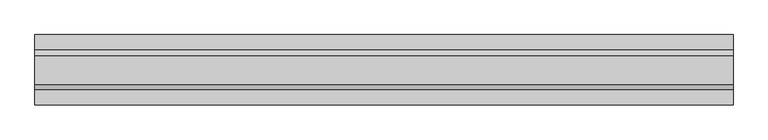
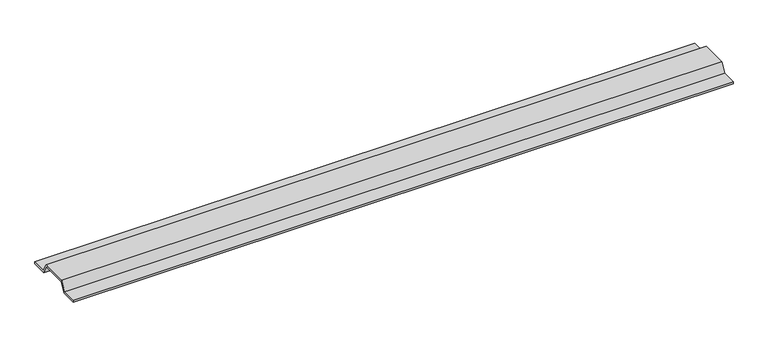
"""IFC4 building model written with IfcOpenShell, lengths in millimetres: beam geometry, B-Deck_Single_Flute_3d_14388 : B-Deck_Single_Flute_3d_14388."""

from ifc_helpers import new_model, si_unit, frame, origin, place, context, project, spatial, polyline, outline, extrude, source, transform, mapped, element, save


def beam_c9c6f53d(model_context):
    return source(origin(), model_context, "Body", "SweptSolid", [
        extrude(outline(polyline([(101.6, 6.35), (101.6, 0.0), (53.9397353, 0.0), (38.0647353, 27.4963066), (-38.0647353, 27.4963066), (-53.9397353, 0.0), (-101.6, 0.0), (-101.6, 6.35), (-57.6059095, 6.35), (-41.7309095, 33.8463066), (41.7309095, 33.8463066), (57.6059095, 6.35), (101.6, 6.35)])), frame((-1397.0, 0.0, 0.0), z_axis=(1.0, 0.0, 0.0), x_axis=(0.0, 1.0, 0.0)), (0.0, 0.0, 1.0), 2016.125),
    ])


if __name__ == "__main__":
    model = new_model("IFC4")
    model_context = context("Model", 3, world=origin())
    ifc_project = project(units=[si_unit("LENGTHUNIT", "METRE", prefix="MILLI")], contexts=[model_context])
    site = spatial("IfcSite", under=ifc_project)
    building = spatial("IfcBuilding", under=site)
    placement = place(None, origin())
    beam_shape = beam_c9c6f53d(model_context)
    element("IfcBeam", 1, ObjectType="B-Deck_Single_Flute_3d_14388 : B-Deck_Single_Flute_3d_14388", at=placement, inside=building, context=model_context, shape_type="MappedRepresentation", body=[
        mapped(beam_shape, transform((0.0, 0.0, 0.0), x_axis=(1.0, 0.0, 0.0), y_axis=(0.0, 1.0, 0.0), z_axis=(0.0, 0.0, 1.0))),
    ])
    save(model, "model.ifc")
